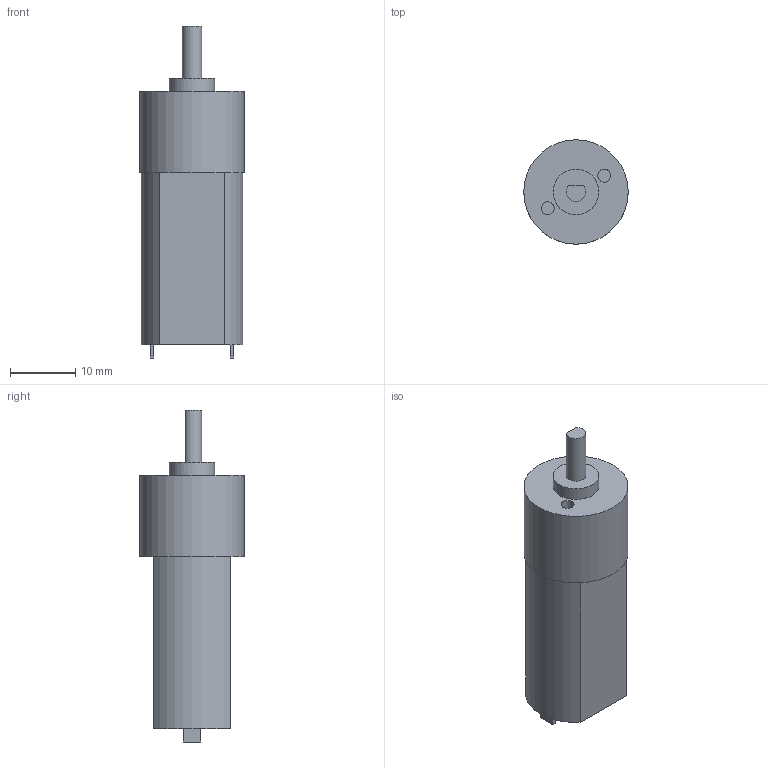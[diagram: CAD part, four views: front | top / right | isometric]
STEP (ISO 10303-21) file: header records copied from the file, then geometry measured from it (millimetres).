
FILE_DESCRIPTION(/* description */ (''),/* implementation_level */ '2;1');
FILE_NAME(/* name */ 'C:/Users/priba/Documents/Temp/Motor16mmL12.5.step',/* time_stamp */ '2020-04-08T11:34:28+02:00',/* author */ (''),/* organization */ (''),/* preprocessor_version */ 'ST-DEVELOPER v18',/* originating_system */ 'Autodesk Translation Framework v8.12.0.6',/* authorisation */ '');
FILE_SCHEMA (('AUTOMOTIVE_DESIGN { 1 0 10303 214 3 1 1 }'));
Length unit declared in the file: millimetre
Products named in the file (1): Motor16mmL12.5
Bounding box: 16 x 16 x 50.9 mm (x, y, z)
Volume: 6927.8 mm3; surface area: 2468.7 mm2
Topology: 1 solids, 1 shells, 27 faces, 58 edges, 40 vertices
Faces by surface type: plane 20, cylinder 7
Full cylindrical faces by diameter (mm): 2 x2, 7 x1, 16 x1
Entity records: 775 total; most frequent: DIRECTION 132, CARTESIAN_POINT 126, ORIENTED_EDGE 116, EDGE_CURVE 58, AXIS2_PLACEMENT_3D 46, LINE 40, VECTOR 40, VERTEX_POINT 40
